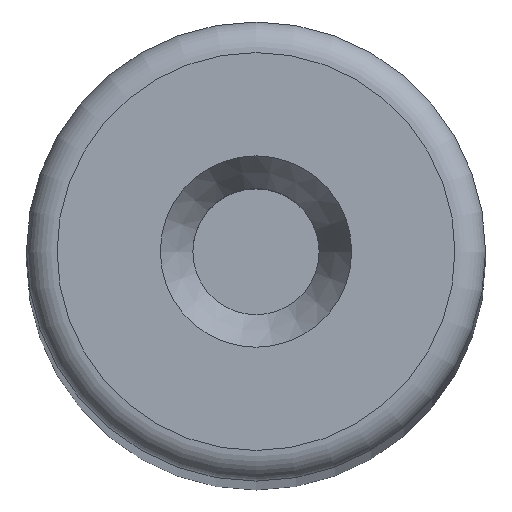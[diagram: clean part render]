
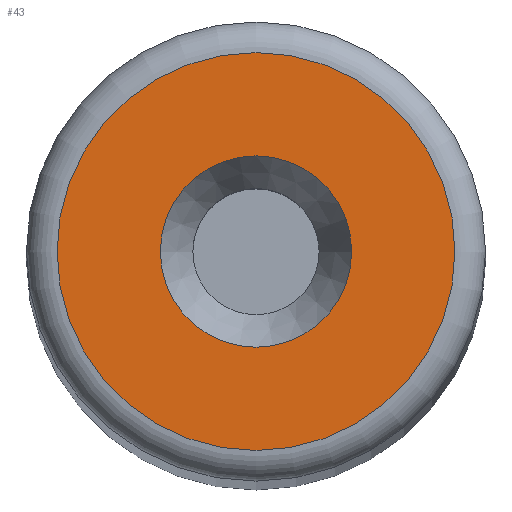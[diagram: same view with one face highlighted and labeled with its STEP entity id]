
A CAD part, top view. The second image highlights one B-rep face of the part: STEP entity #43.
In plain terms, the highlighted planar face has unit normal (0, 0, 1).
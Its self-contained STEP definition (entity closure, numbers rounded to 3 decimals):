
#43=ADVANCED_FACE('',(#58,#59),#54,.T.);
#54=PLANE('',#149);
#58=FACE_BOUND('',#76,.T.);
#59=FACE_BOUND('',#77,.T.);
#76=EDGE_LOOP('',(#96));
#77=EDGE_LOOP('',(#97));
#96=ORIENTED_EDGE('',*,*,#126,.T.);
#97=ORIENTED_EDGE('',*,*,#127,.F.);
#116=VERTEX_POINT('',#214);
#117=VERTEX_POINT('',#216);
#126=EDGE_CURVE('',#116,#116,#136,.T.);
#127=EDGE_CURVE('',#117,#117,#137,.T.);
#136=CIRCLE('',#147,5.2);
#137=CIRCLE('',#148,2.5);
#147=AXIS2_PLACEMENT_3D('',#213,#170,#171);
#148=AXIS2_PLACEMENT_3D('',#215,#172,#173);
#149=AXIS2_PLACEMENT_3D('',#217,#174,#175);
#170=DIRECTION('',(0.,0.,1.));
#171=DIRECTION('',(1.,0.,0.));
#172=DIRECTION('',(0.,0.,1.));
#173=DIRECTION('',(1.,0.,0.));
#174=DIRECTION('',(0.,0.,1.));
#175=DIRECTION('',(1.,0.,0.));
#213=CARTESIAN_POINT('',(0.,0.,134.));
#214=CARTESIAN_POINT('',(5.2,0.,134.));
#215=CARTESIAN_POINT('',(0.,0.,134.));
#216=CARTESIAN_POINT('',(2.5,0.,134.));
#217=CARTESIAN_POINT('',(0.,0.,134.));
